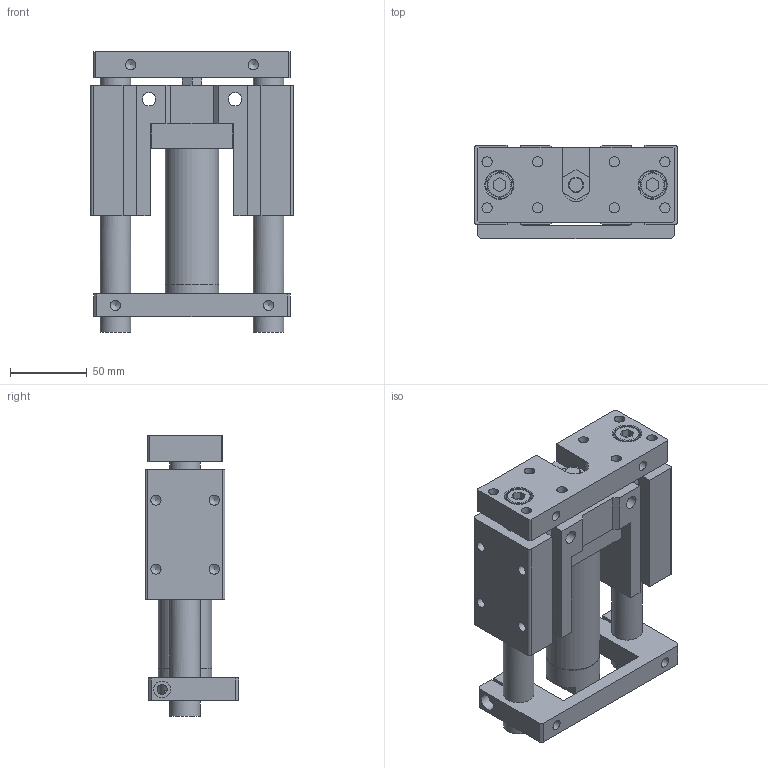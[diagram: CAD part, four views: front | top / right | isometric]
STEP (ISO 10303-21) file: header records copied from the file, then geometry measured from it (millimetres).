
FILE_DESCRIPTION((''),'2;1');
FILE_NAME('I:\3D電子目錄\氣缸\TMB(U)\TMB(U)\TMB(U)32\TMB(U)32x50.stp','2007-10-05T11:15:49',('Administrator'),(''),'Autodesk Inventor 11','Autodesk Inventor 11','');
FILE_SCHEMA(('AUTOMOTIVE_DESIGN { 1 0 10303 214 1 1 1 1 }'));
Length unit declared in the file: millimetre
Products named in the file (1): TMB(U)32
Bounding box: 132 x 61 x 183 mm (x, y, z)
Volume: 689531.4 mm3; surface area: 119418 mm2
Topology: 1 solids, 1 shells, 198 faces, 514 edges, 338 vertices
Faces by surface type: plane 117, bspline 41, cylinder 23, cone 15, torus 2
Full cylindrical faces by diameter (mm): 6.5 x2, 6.647 x6, 10 x1, 11 x1, 16 x2, 18 x2, 20 x2, 35 x2
Entity records: 6000 total; most frequent: CARTESIAN_POINT 1554, DIRECTION 850, ORIENTED_EDGE 842, EDGE_CURVE 421, EDGE_LOOP 320, VERTEX_POINT 313, VECTOR 300, LINE 300
